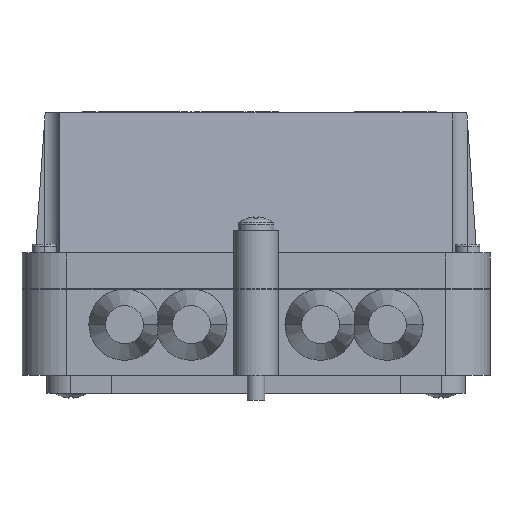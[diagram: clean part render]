
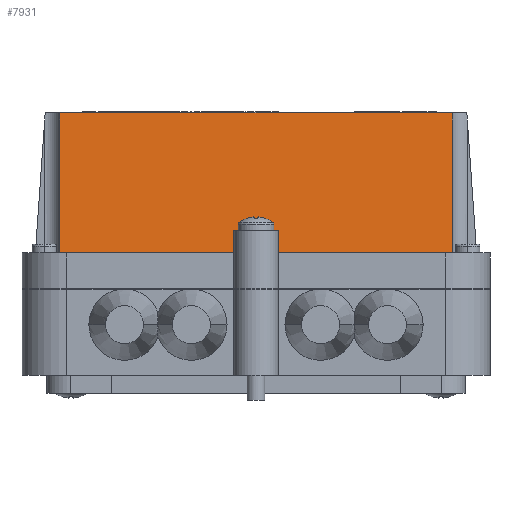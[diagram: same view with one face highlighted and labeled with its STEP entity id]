
A CAD part, front view. The second image highlights one B-rep face of the part: STEP entity #7931.
In plain terms, the highlighted planar face has unit normal (0, -0.998, 0.07) as drawn and (0, 0.07, 0.998) by its records, which use the part's own axes.
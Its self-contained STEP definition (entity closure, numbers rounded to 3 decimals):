
#1000 = DIRECTION ( 'NONE',  ( 0., -0.998, 0.07 ) ) ;
#3771 = DIRECTION ( 'NONE',  ( 0., -0.998, 0.07 ) ) ;
#3834 = CARTESIAN_POINT ( 'NONE',  ( -44., 56.101, 52.5 ) ) ;
#6052 = CARTESIAN_POINT ( 'NONE',  ( -44.002, 58.035, 52.365 ) ) ;
#7808 = VERTEX_POINT ( 'NONE', #95063 ) ;
#7931 = ADVANCED_FACE ( 'NONE', ( #180457 ), #70523, .T. ) ;
#8349 = LINE ( 'NONE', #29398, #128178 ) ;
#8612 = VERTEX_POINT ( 'NONE', #87821 ) ;
#9624 = CARTESIAN_POINT ( 'NONE',  ( 44., 56.101, 52.5 ) ) ;
#10988 = EDGE_CURVE ( 'NONE', #19867, #8612, #170108, .T. ) ;
#12776 = EDGE_LOOP ( 'NONE', ( #68438, #195510, #69398, #92531, #160369, #138713, #141377, #120805, #123684, #35934 ) ) ;
#15288 = VECTOR ( 'NONE', #1000, 1000. ) ;
#17750 = CARTESIAN_POINT ( 'NONE',  ( -49.5, 32.5, 54.15 ) ) ;
#19186 = VERTEX_POINT ( 'NONE', #9624 ) ;
#19867 = VERTEX_POINT ( 'NONE', #3834 ) ;
#21885 = CARTESIAN_POINT ( 'NONE',  ( -49.5, 27.5, 54.5 ) ) ;
#22097 = EDGE_CURVE ( 'NONE', #19186, #32552, #41163, .T. ) ;
#24671 = CARTESIAN_POINT ( 'NONE',  ( -5., 27.5, 54.5 ) ) ;
#26685 = DIRECTION ( 'NONE',  ( 1., 0., 0. ) ) ;
#28260 = VECTOR ( 'NONE', #183184, 1000. ) ;
#29398 = CARTESIAN_POINT ( 'NONE',  ( -49.5, 27.5, 54.5 ) ) ;
#32552 = VERTEX_POINT ( 'NONE', #110710 ) ;
#35934 = ORIENTED_EDGE ( 'NONE', *, *, #130990, .T. ) ;
#37578 = VECTOR ( 'NONE', #47805, 1000. ) ;
#41163 =( BOUNDED_CURVE ( )  B_SPLINE_CURVE ( 3, ( #68900, #159611, #52623, #114747 ),
 .UNSPECIFIED., .F., .F. ) 
 B_SPLINE_CURVE_WITH_KNOTS ( ( 4, 4 ),
 ( 4.712, 4.77 ),
 .UNSPECIFIED. ) 
 CURVE ( )  GEOMETRIC_REPRESENTATION_ITEM ( )  RATIONAL_B_SPLINE_CURVE ( ( 1., 1., 1., 1. ) ) 
 REPRESENTATION_ITEM ( '' )  );
#47805 = DIRECTION ( 'NONE',  ( 0., 0.998, -0.07 ) ) ;
#48382 = VERTEX_POINT ( 'NONE', #197008 ) ;
#52623 = CARTESIAN_POINT ( 'NONE',  ( 44.002, 58.035, 52.365 ) ) ;
#52663 = CARTESIAN_POINT ( 'NONE',  ( -5., 27.5, 54.5 ) ) ;
#54493 = LINE ( 'NONE', #21885, #180212 ) ;
#56875 = EDGE_CURVE ( 'NONE', #7808, #48382, #184165, .T. ) ;
#62159 = CARTESIAN_POINT ( 'NONE',  ( -44., 27.5, 54.5 ) ) ;
#65942 = CARTESIAN_POINT ( 'NONE',  ( -44.006, 59., 52.297 ) ) ;
#68438 = ORIENTED_EDGE ( 'NONE', *, *, #118214, .T. ) ;
#68900 = CARTESIAN_POINT ( 'NONE',  ( 44., 56.101, 52.5 ) ) ;
#69398 = ORIENTED_EDGE ( 'NONE', *, *, #129523, .F. ) ;
#70523 = PLANE ( 'NONE',  #141331 ) ;
#82846 =( BOUNDED_CURVE ( )  B_SPLINE_CURVE ( 3, ( #144620, #6052, #142611, #190323 ),
 .UNSPECIFIED., .F., .F. ) 
 B_SPLINE_CURVE_WITH_KNOTS ( ( 4, 4 ),
 ( 1.513, 1.571 ),
 .UNSPECIFIED. ) 
 CURVE ( )  GEOMETRIC_REPRESENTATION_ITEM ( )  RATIONAL_B_SPLINE_CURVE ( ( 1., 1., 1., 1. ) ) 
 REPRESENTATION_ITEM ( '' )  );
#82859 = LINE ( 'NONE', #17750, #134136 ) ;
#87788 = DIRECTION ( 'NONE',  ( 0., 0.07, 0.998 ) ) ;
#87821 = CARTESIAN_POINT ( 'NONE',  ( -44., 27.5, 54.5 ) ) ;
#92531 = ORIENTED_EDGE ( 'NONE', *, *, #97455, .T. ) ;
#95063 = CARTESIAN_POINT ( 'NONE',  ( 5., 27.5, 54.5 ) ) ;
#97128 = DIRECTION ( 'NONE',  ( 1., 0., 0. ) ) ;
#97455 = EDGE_CURVE ( 'NONE', #198354, #19867, #82846, .T. ) ;
#110710 = CARTESIAN_POINT ( 'NONE',  ( 44.006, 59., 52.297 ) ) ;
#114014 = EDGE_CURVE ( 'NONE', #194612, #131757, #173884, .T. ) ;
#114747 = CARTESIAN_POINT ( 'NONE',  ( 44.006, 59., 52.297 ) ) ;
#116988 = LINE ( 'NONE', #192263, #140336 ) ;
#118214 = EDGE_CURVE ( 'NONE', #171870, #19186, #188248, .T. ) ;
#120805 = ORIENTED_EDGE ( 'NONE', *, *, #182587, .T. ) ;
#121159 = CARTESIAN_POINT ( 'NONE',  ( 5., 27.5, 54.5 ) ) ;
#123684 = ORIENTED_EDGE ( 'NONE', *, *, #56875, .F. ) ;
#125205 = CARTESIAN_POINT ( 'NONE',  ( 44., 27.5, 54.5 ) ) ;
#128178 = VECTOR ( 'NONE', #194620, 1000. ) ;
#129523 = EDGE_CURVE ( 'NONE', #198354, #32552, #116988, .T. ) ;
#130990 = EDGE_CURVE ( 'NONE', #7808, #171870, #8349, .T. ) ;
#131757 = VERTEX_POINT ( 'NONE', #24671 ) ;
#134136 = VECTOR ( 'NONE', #97128, 1000. ) ;
#138713 = ORIENTED_EDGE ( 'NONE', *, *, #199867, .T. ) ;
#140336 = VECTOR ( 'NONE', #165810, 1000. ) ;
#141331 = AXIS2_PLACEMENT_3D ( 'NONE', #194660, #87788, #26685 ) ;
#141377 = ORIENTED_EDGE ( 'NONE', *, *, #114014, .F. ) ;
#142611 = CARTESIAN_POINT ( 'NONE',  ( -44., 57.068, 52.432 ) ) ;
#144620 = CARTESIAN_POINT ( 'NONE',  ( -44.006, 59., 52.297 ) ) ;
#153638 = CARTESIAN_POINT ( 'NONE',  ( 44., 27.5, 54.5 ) ) ;
#159611 = CARTESIAN_POINT ( 'NONE',  ( 44., 57.068, 52.432 ) ) ;
#160369 = ORIENTED_EDGE ( 'NONE', *, *, #10988, .T. ) ;
#165810 = DIRECTION ( 'NONE',  ( 1., 0., 0. ) ) ;
#170108 = LINE ( 'NONE', #62159, #15288 ) ;
#171870 = VERTEX_POINT ( 'NONE', #153638 ) ;
#173884 = LINE ( 'NONE', #52663, #191656 ) ;
#179703 = CARTESIAN_POINT ( 'NONE',  ( -5., 32.5, 54.15 ) ) ;
#180212 = VECTOR ( 'NONE', #192888, 1000. ) ;
#180457 = FACE_OUTER_BOUND ( 'NONE', #12776, .T. ) ;
#182587 = EDGE_CURVE ( 'NONE', #194612, #48382, #82859, .T. ) ;
#183184 = DIRECTION ( 'NONE',  ( 0., 0.998, -0.07 ) ) ;
#184165 = LINE ( 'NONE', #121159, #28260 ) ;
#188248 = LINE ( 'NONE', #125205, #37578 ) ;
#190323 = CARTESIAN_POINT ( 'NONE',  ( -44., 56.101, 52.5 ) ) ;
#191656 = VECTOR ( 'NONE', #3771, 1000. ) ;
#192263 = CARTESIAN_POINT ( 'NONE',  ( 49.5, 59., 52.297 ) ) ;
#192888 = DIRECTION ( 'NONE',  ( 1., 0., 0. ) ) ;
#194612 = VERTEX_POINT ( 'NONE', #179703 ) ;
#194620 = DIRECTION ( 'NONE',  ( 1., 0., 0. ) ) ;
#194660 = CARTESIAN_POINT ( 'NONE',  ( -49.5, 27.5, 54.5 ) ) ;
#195510 = ORIENTED_EDGE ( 'NONE', *, *, #22097, .T. ) ;
#197008 = CARTESIAN_POINT ( 'NONE',  ( 5., 32.5, 54.15 ) ) ;
#198354 = VERTEX_POINT ( 'NONE', #65942 ) ;
#199867 = EDGE_CURVE ( 'NONE', #8612, #131757, #54493, .T. ) ;
